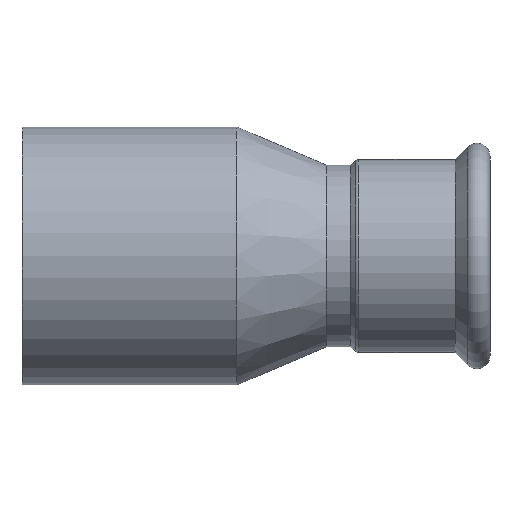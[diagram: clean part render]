
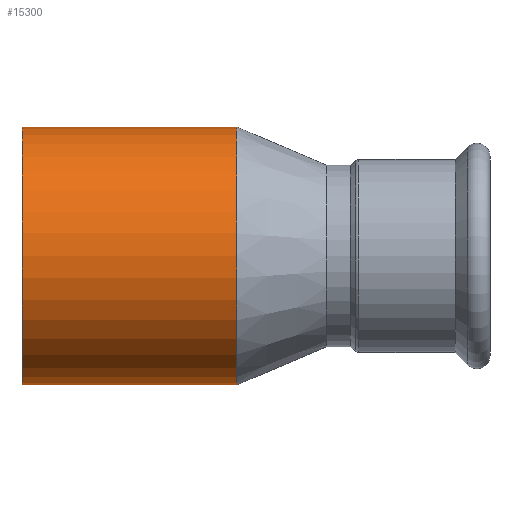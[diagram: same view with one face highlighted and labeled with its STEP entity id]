
A CAD part, top view. The second image highlights one B-rep face of the part: STEP entity #15300.
In plain terms, the highlighted cylindrical face has radius 54 mm (diameter 108 mm), a partial arc.
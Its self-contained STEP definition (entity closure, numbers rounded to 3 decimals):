
#14270=CARTESIAN_POINT('',(-43.,54.,0.));
#14280=VERTEX_POINT('',#14270);
#14370=CARTESIAN_POINT('',(-43.,-54.,0.));
#14380=VERTEX_POINT('',#14370);
#14410=CARTESIAN_POINT('',(-43.,0.,0.));
#14420=DIRECTION('',(-1.,0.,0.));
#14430=DIRECTION('',(0.,-1.,0.));
#14440=AXIS2_PLACEMENT_3D('',#14410,#14420,#14430);
#14450=CIRCLE('',#14440,54.);
#14460=EDGE_CURVE('',#14380,#14280,#14450,.T.);
#14930=CARTESIAN_POINT('',(-133.,0.,0.));
#14940=DIRECTION('',(-1.,0.,0.));
#14950=DIRECTION('',(0.,-1.,0.));
#14960=AXIS2_PLACEMENT_3D('',#14930,#14940,#14950);
#14970=CIRCLE('',#14960,54.);
#14980=CARTESIAN_POINT('',(-133.,-54.,0.));
#14990=VERTEX_POINT('',#14980);
#15000=CARTESIAN_POINT('',(-133.,54.,0.));
#15010=VERTEX_POINT('',#15000);
#15020=EDGE_CURVE('',#14990,#15010,#14970,.T.);
#15090=CARTESIAN_POINT('',(-133.,0.,0.));
#15100=DIRECTION('',(-1.,0.,0.));
#15110=DIRECTION('',(0.,-1.,0.));
#15120=AXIS2_PLACEMENT_3D('',#15090,#15100,#15110);
#15130=CYLINDRICAL_SURFACE('',#15120,54.);
#15140=CARTESIAN_POINT('',(-133.,-54.,0.));
#15150=DIRECTION('',(-1.,0.,0.));
#15160=VECTOR('',#15150,1.);
#15170=LINE('',#15140,#15160);
#15180=EDGE_CURVE('',#14380,#14990,#15170,.T.);
#15190=ORIENTED_EDGE('',*,*,#15180,.F.);
#15200=ORIENTED_EDGE('',*,*,#15020,.F.);
#15210=CARTESIAN_POINT('',(-133.,54.,0.));
#15220=DIRECTION('',(-1.,0.,0.));
#15230=VECTOR('',#15220,1.);
#15240=LINE('',#15210,#15230);
#15250=EDGE_CURVE('',#14280,#15010,#15240,.T.);
#15260=ORIENTED_EDGE('',*,*,#15250,.T.);
#15270=ORIENTED_EDGE('',*,*,#14460,.T.);
#15280=EDGE_LOOP('',(#15270,#15260,#15200,#15190));
#15290=FACE_OUTER_BOUND('',#15280,.T.);
#15300=ADVANCED_FACE('',(#15290),#15130,.T.);
